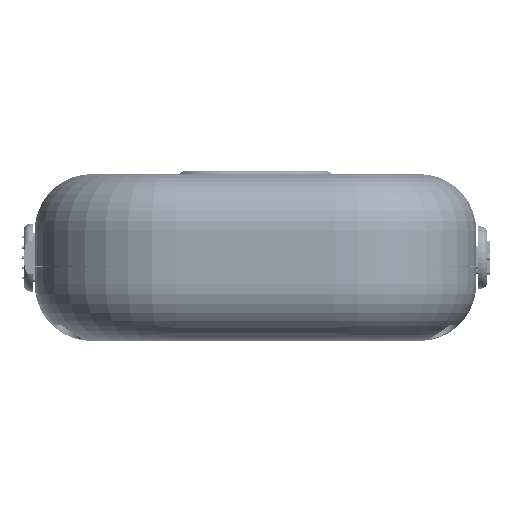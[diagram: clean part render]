
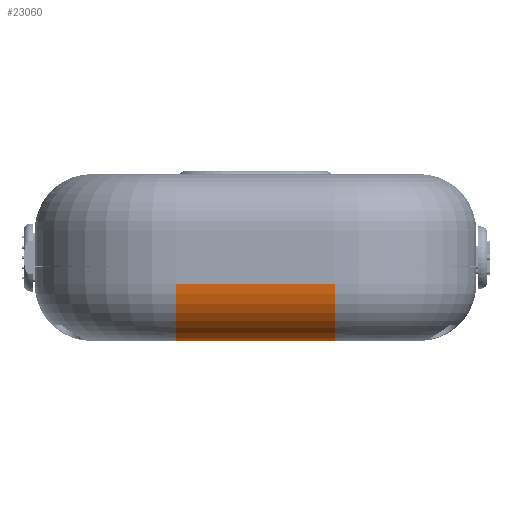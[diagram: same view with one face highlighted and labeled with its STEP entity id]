
A CAD part, front view. The second image highlights one B-rep face of the part: STEP entity #23060.
In plain terms, the highlighted cylindrical face has radius 10 mm (diameter 20 mm), a partial arc.
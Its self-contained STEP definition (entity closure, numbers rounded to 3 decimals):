
#207 = TOROIDAL_SURFACE('',#208,15.,10.);
#208 = AXIS2_PLACEMENT_3D('',#209,#210,#211);
#209 = CARTESIAN_POINT('',(-14.,-50.,-19.5));
#210 = DIRECTION('',(0.,0.,-1.));
#211 = DIRECTION('',(-1.,0.,0.));
#1037 = VERTEX_POINT('',#1038);
#1038 = CARTESIAN_POINT('',(-14.,-65.,-29.5));
#1053 = PLANE('',#1054);
#1054 = AXIS2_PLACEMENT_3D('',#1055,#1056,#1057);
#1055 = CARTESIAN_POINT('',(0.,0.,-29.5));
#1056 = DIRECTION('',(0.,0.,-1.));
#1057 = DIRECTION('',(-1.,0.,0.));
#1069 = EDGE_CURVE('',#1070,#1037,#1072,.T.);
#1070 = VERTEX_POINT('',#1071);
#1071 = CARTESIAN_POINT('',(-14.,-75.,-19.5));
#1072 = SURFACE_CURVE('',#1073,(#1078,#1085),.PCURVE_S1.);
#1073 = CIRCLE('',#1074,10.);
#1074 = AXIS2_PLACEMENT_3D('',#1075,#1076,#1077);
#1075 = CARTESIAN_POINT('',(-14.,-65.,-19.5));
#1076 = DIRECTION('',(1.,0.,0.));
#1077 = DIRECTION('',(0.,-1.,0.));
#1078 = PCURVE('',#207,#1079);
#1079 = DEFINITIONAL_REPRESENTATION('',(#1080),#1084);
#1080 = LINE('',#1081,#1082);
#1081 = CARTESIAN_POINT('',(4.712,0.));
#1082 = VECTOR('',#1083,1.);
#1083 = DIRECTION('',(0.,1.));
#1084 = ( GEOMETRIC_REPRESENTATION_CONTEXT(2) 
PARAMETRIC_REPRESENTATION_CONTEXT() REPRESENTATION_CONTEXT('2D SPACE',''
  ) );
#1085 = PCURVE('',#1086,#1091);
#1086 = CYLINDRICAL_SURFACE('',#1087,10.);
#1087 = AXIS2_PLACEMENT_3D('',#1088,#1089,#1090);
#1088 = CARTESIAN_POINT('',(7.,-65.,-19.5));
#1089 = DIRECTION('',(-1.,0.,0.));
#1090 = DIRECTION('',(0.,-0.707,-0.707
    ));
#1091 = DEFINITIONAL_REPRESENTATION('',(#1092),#1096);
#1092 = LINE('',#1093,#1094);
#1093 = CARTESIAN_POINT('',(7.069,21.));
#1094 = VECTOR('',#1095,1.);
#1095 = DIRECTION('',(-1.,0.));
#1096 = ( GEOMETRIC_REPRESENTATION_CONTEXT(2) 
PARAMETRIC_REPRESENTATION_CONTEXT() REPRESENTATION_CONTEXT('2D SPACE',''
  ) );
#6219 = VERTEX_POINT('',#6220);
#6220 = CARTESIAN_POINT('',(14.,-65.,-29.5));
#6239 = TOROIDAL_SURFACE('',#6240,15.,10.);
#6240 = AXIS2_PLACEMENT_3D('',#6241,#6242,#6243);
#6241 = CARTESIAN_POINT('',(14.,-50.,-19.5));
#6242 = DIRECTION('',(0.,0.,-1.));
#6243 = DIRECTION('',(-1.,0.,0.));
#6251 = EDGE_CURVE('',#1037,#6219,#6252,.T.);
#6252 = SURFACE_CURVE('',#6253,(#6257,#6264),.PCURVE_S1.);
#6253 = LINE('',#6254,#6255);
#6254 = CARTESIAN_POINT('',(7.,-65.,-29.5));
#6255 = VECTOR('',#6256,1.);
#6256 = DIRECTION('',(1.,0.,0.));
#6257 = PCURVE('',#1053,#6258);
#6258 = DEFINITIONAL_REPRESENTATION('',(#6259),#6263);
#6259 = LINE('',#6260,#6261);
#6260 = CARTESIAN_POINT('',(-7.,-65.));
#6261 = VECTOR('',#6262,1.);
#6262 = DIRECTION('',(-1.,0.));
#6263 = ( GEOMETRIC_REPRESENTATION_CONTEXT(2) 
PARAMETRIC_REPRESENTATION_CONTEXT() REPRESENTATION_CONTEXT('2D SPACE',''
  ) );
#6264 = PCURVE('',#1086,#6265);
#6265 = DEFINITIONAL_REPRESENTATION('',(#6266),#6270);
#6266 = LINE('',#6267,#6268);
#6267 = CARTESIAN_POINT('',(5.498,0.));
#6268 = VECTOR('',#6269,1.);
#6269 = DIRECTION('',(0.,-1.));
#6270 = ( GEOMETRIC_REPRESENTATION_CONTEXT(2) 
PARAMETRIC_REPRESENTATION_CONTEXT() REPRESENTATION_CONTEXT('2D SPACE',''
  ) );
#23060 = ADVANCED_FACE('',(#23061),#1086,.T.);
#23061 = FACE_BOUND('',#23062,.T.);
#23062 = EDGE_LOOP('',(#23063,#23064,#23065,#23089));
#23063 = ORIENTED_EDGE('',*,*,#1069,.T.);
#23064 = ORIENTED_EDGE('',*,*,#6251,.T.);
#23065 = ORIENTED_EDGE('',*,*,#23066,.F.);
#23066 = EDGE_CURVE('',#23067,#6219,#23069,.T.);
#23067 = VERTEX_POINT('',#23068);
#23068 = CARTESIAN_POINT('',(14.,-75.,-19.5));
#23069 = SURFACE_CURVE('',#23070,(#23075,#23082),.PCURVE_S1.);
#23070 = CIRCLE('',#23071,10.);
#23071 = AXIS2_PLACEMENT_3D('',#23072,#23073,#23074);
#23072 = CARTESIAN_POINT('',(14.,-65.,-19.5));
#23073 = DIRECTION('',(1.,0.,0.));
#23074 = DIRECTION('',(0.,-1.,0.));
#23075 = PCURVE('',#1086,#23076);
#23076 = DEFINITIONAL_REPRESENTATION('',(#23077),#23081);
#23077 = LINE('',#23078,#23079);
#23078 = CARTESIAN_POINT('',(7.069,-7.));
#23079 = VECTOR('',#23080,1.);
#23080 = DIRECTION('',(-1.,0.));
#23081 = ( GEOMETRIC_REPRESENTATION_CONTEXT(2) 
PARAMETRIC_REPRESENTATION_CONTEXT() REPRESENTATION_CONTEXT('2D SPACE',''
  ) );
#23082 = PCURVE('',#6239,#23083);
#23083 = DEFINITIONAL_REPRESENTATION('',(#23084),#23088);
#23084 = LINE('',#23085,#23086);
#23085 = CARTESIAN_POINT('',(4.712,0.));
#23086 = VECTOR('',#23087,1.);
#23087 = DIRECTION('',(0.,1.));
#23088 = ( GEOMETRIC_REPRESENTATION_CONTEXT(2) 
PARAMETRIC_REPRESENTATION_CONTEXT() REPRESENTATION_CONTEXT('2D SPACE',''
  ) );
#23089 = ORIENTED_EDGE('',*,*,#23090,.T.);
#23090 = EDGE_CURVE('',#23067,#1070,#23091,.T.);
#23091 = SURFACE_CURVE('',#23092,(#23096,#23103),.PCURVE_S1.);
#23092 = LINE('',#23093,#23094);
#23093 = CARTESIAN_POINT('',(7.,-75.,-19.5));
#23094 = VECTOR('',#23095,1.);
#23095 = DIRECTION('',(-1.,0.,0.));
#23096 = PCURVE('',#1086,#23097);
#23097 = DEFINITIONAL_REPRESENTATION('',(#23098),#23102);
#23098 = LINE('',#23099,#23100);
#23099 = CARTESIAN_POINT('',(7.069,0.));
#23100 = VECTOR('',#23101,1.);
#23101 = DIRECTION('',(0.,1.));
#23102 = ( GEOMETRIC_REPRESENTATION_CONTEXT(2) 
PARAMETRIC_REPRESENTATION_CONTEXT() REPRESENTATION_CONTEXT('2D SPACE',''
  ) );
#23103 = PCURVE('',#23104,#23109);
#23104 = PLANE('',#23105);
#23105 = AXIS2_PLACEMENT_3D('',#23106,#23107,#23108);
#23106 = CARTESIAN_POINT('',(14.,-75.,-15.));
#23107 = DIRECTION('',(0.,-1.,-0.));
#23108 = DIRECTION('',(-1.,0.,0.));
#23109 = DEFINITIONAL_REPRESENTATION('',(#23110),#23114);
#23110 = LINE('',#23111,#23112);
#23111 = CARTESIAN_POINT('',(7.,4.5));
#23112 = VECTOR('',#23113,1.);
#23113 = DIRECTION('',(1.,0.));
#23114 = ( GEOMETRIC_REPRESENTATION_CONTEXT(2) 
PARAMETRIC_REPRESENTATION_CONTEXT() REPRESENTATION_CONTEXT('2D SPACE',''
  ) );
